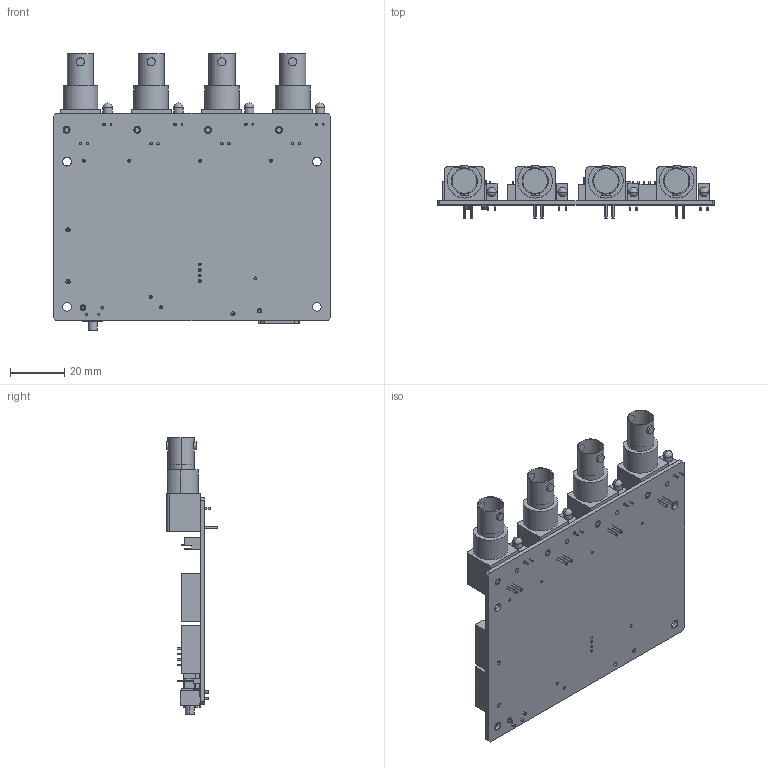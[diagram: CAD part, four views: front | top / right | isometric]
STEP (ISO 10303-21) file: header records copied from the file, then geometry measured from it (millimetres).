
FILE_DESCRIPTION (( 'STEP AP203' ), '1' );
FILE_NAME ('Assy PCB AVD-2000 191112.STEP', '2019-11-12T19:04:29', ( '' ), ( '' ), 'SwSTEP 2.0', 'SolidWorks 2019', '' );
FILE_SCHEMA (( 'CONFIG_CONTROL_DESIGN' ));
Length unit declared in the file: inch
Products named in the file (12): 210010006-3 2.5-F-06p; Assy PCB AVD-2000 191112; 212030101-3 BNC Horiz; PCB AVD-2000 6023401; 210010002-3 2.5-F-02p; 210021402-3 Header_2.0_2x1; 212200190-3 HDMI; 212040520-3 Micro USB AB Type; 196002412-3 Tact SW; 210006020-3 Header 20P Horiz; 210018005-3 PH Conn 2.0-F-05p; LED 3.4mm Green RA Kingbright L-1384AD_1GD
Assembly tree (25 placements, depth 2):
  Assy PCB AVD-2000 191112
    PCB AVD-2000 6023401
    210010006-3 2.5-F-06p  x2
    210018005-3 PH Conn 2.0-F-05p  x4
    212030101-3 BNC Horiz  x4
    210006020-3 Header 20P Horiz
    210010002-3 2.5-F-02p
    210021402-3 Header_2.0_2x1  x5
    212200190-3 HDMI
    196002412-3 Tact SW
    212040520-3 Micro USB AB Type
    LED 3.4mm Green RA Kingbright L-1384AD_1GD  x4
Bounding box: 102.01 x 19.05 x 101.6 mm (x, y, z)
Volume: 29041.2 mm3; surface area: 32634 mm2
Topology: 45 solids, 45 shells, 1367 faces, 3316 edges, 2168 vertices
Faces by surface type: plane 1031, cylinder 312, torus 16, sphere 8
Entity records: 26322 total; most frequent: CARTESIAN_POINT 4372, DIRECTION 4148, ORIENTED_EDGE 4104, EDGE_CURVE 2052, LINE 1682, VECTOR 1682, VERTEX_POINT 1333, AXIS2_PLACEMENT_3D 1233
